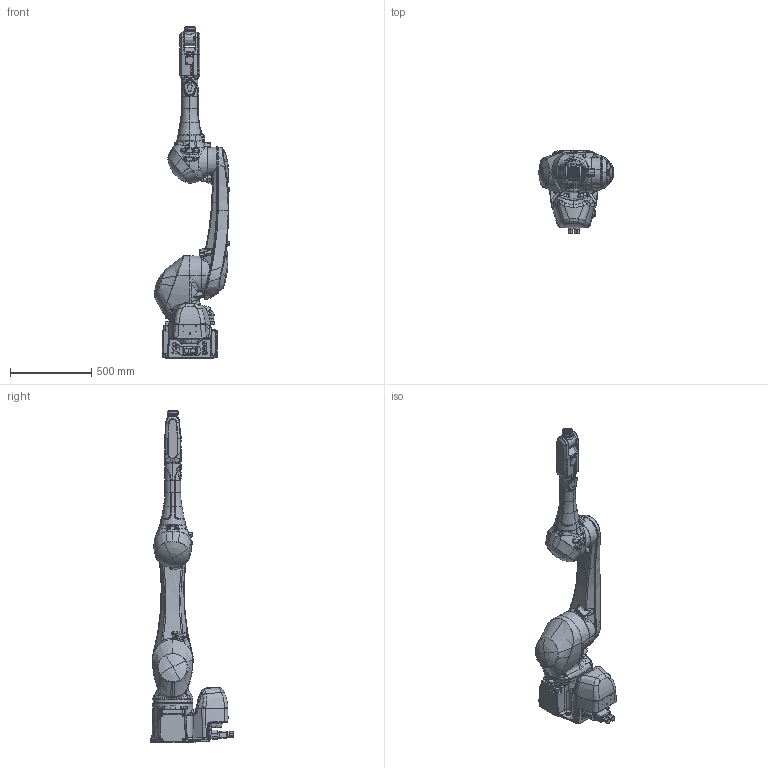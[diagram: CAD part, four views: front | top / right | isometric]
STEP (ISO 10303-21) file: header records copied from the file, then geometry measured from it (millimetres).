
FILE_DESCRIPTION(('CATIA V5 STEP Exchange','CAx-IF Rec.Pracs.--- Composite Materials ---3.4---2017-06-13'),'2;1');
FILE_NAME('D:\モデリング\☆☆☆STEP\RS\RS013N\RS013N-A RARAS_190913\Part\step\220209_catia\RS013N-AC01.stp','2022-02-09T08:00:19+00:00',('none'),('none'),'CATIA Version 5-6 Release 2020 SP4 HF11','CATIA V5 STEP AP203 v2','none');
FILE_SCHEMA(('CONFIG_CONTROL_DESIGN'));
Length unit declared in the file: millimetre
Products named in the file (1): RS013N-AC01
Assembly tree (7 placements, depth 2):
  RS013N-AC01
    #57
    #34469
    #58494
    #105092
    #126538
    #165130
    #177210
Bounding box: 456.45 x 516.77 x 2043 mm (x, y, z)
Volume: 81557390.6 mm3; surface area: 2330347.6 mm2
Topology: 7 solids, 7 shells, 3144 faces, 7963 edges, 4879 vertices
Faces by surface type: plane 942, bspline 909, cylinder 695, cone 325, torus 141, sphere 71, revolution 46, extrusion 15
Entity records: 180084 total; most frequent: CARTESIAN_POINT 118559, ORIENTED_EDGE 15594, EDGE_CURVE 7797, DIRECTION 7190, VERTEX_POINT 4879, B_SPLINE_CURVE_WITH_KNOTS 3769, EDGE_LOOP 3376, AXIS2_PLACEMENT_3D 3290
